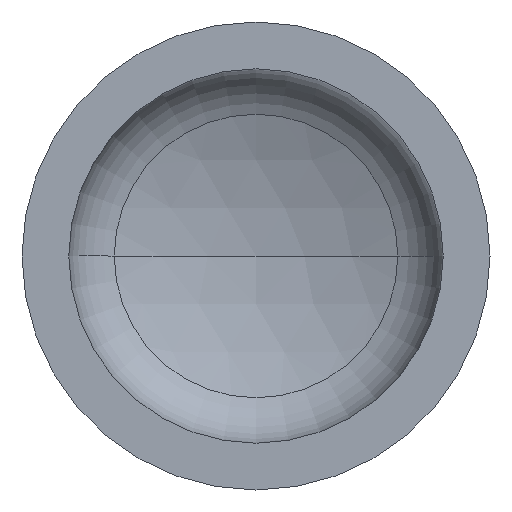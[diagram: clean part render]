
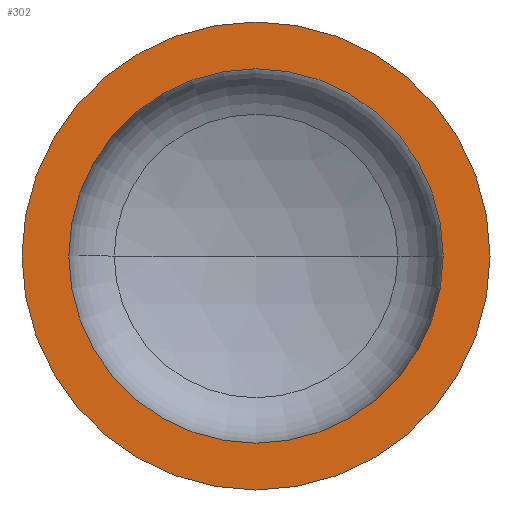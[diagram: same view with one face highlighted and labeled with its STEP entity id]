
A CAD part, front view. The second image highlights one B-rep face of the part: STEP entity #302.
In plain terms, the highlighted planar face has unit normal (0, -1, 0).
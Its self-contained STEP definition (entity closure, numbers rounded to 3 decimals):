
#5 = CIRCLE ( 'NONE', #177, 400. ) ;
#13 = AXIS2_PLACEMENT_3D ( 'NONE', #183, #120, #129 ) ;
#16 = AXIS2_PLACEMENT_3D ( 'NONE', #370, #373, #194 ) ;
#32 = ORIENTED_EDGE ( 'NONE', *, *, #380, .T. ) ;
#46 = EDGE_LOOP ( 'NONE', ( #113, #80 ) ) ;
#58 = VERTEX_POINT ( 'NONE', #248 ) ;
#66 = VERTEX_POINT ( 'NONE', #295 ) ;
#76 = AXIS2_PLACEMENT_3D ( 'NONE', #376, #386, #316 ) ;
#79 = AXIS2_PLACEMENT_3D ( 'NONE', #339, #336, #359 ) ;
#80 = ORIENTED_EDGE ( 'NONE', *, *, #337, .F. ) ;
#89 = EDGE_LOOP ( 'NONE', ( #32, #152 ) ) ;
#106 = EDGE_CURVE ( 'NONE', #58, #117, #368, .T. ) ;
#112 = VERTEX_POINT ( 'NONE', #320 ) ;
#113 = ORIENTED_EDGE ( 'NONE', *, *, #114, .F. ) ;
#114 = EDGE_CURVE ( 'NONE', #66, #112, #305, .T. ) ;
#117 = VERTEX_POINT ( 'NONE', #341 ) ;
#120 = DIRECTION ( 'NONE',  ( 0., 1., 0. ) ) ;
#129 = DIRECTION ( 'NONE',  ( -1., 0., 0. ) ) ;
#140 = FACE_OUTER_BOUND ( 'NONE', #89, .T. ) ;
#152 = ORIENTED_EDGE ( 'NONE', *, *, #106, .T. ) ;
#164 = DIRECTION ( 'NONE',  ( 0., -1., 0. ) ) ;
#177 = AXIS2_PLACEMENT_3D ( 'NONE', #309, #164, #267 ) ;
#183 = CARTESIAN_POINT ( 'NONE',  ( -400., 0., 0. ) ) ;
#194 = DIRECTION ( 'NONE',  ( 1., 0., 0. ) ) ;
#248 = CARTESIAN_POINT ( 'NONE',  ( -400., 0., 0. ) ) ;
#267 = DIRECTION ( 'NONE',  ( 1., 0., 0. ) ) ;
#269 = FACE_BOUND ( 'NONE', #46, .T. ) ;
#295 = CARTESIAN_POINT ( 'NONE',  ( 320., 0., 0. ) ) ;
#302 = ADVANCED_FACE ( 'NONE', ( #269, #140 ), #403, .F. ) ;
#305 = CIRCLE ( 'NONE', #76, 320. ) ;
#309 = CARTESIAN_POINT ( 'NONE',  ( 0., 0., 0. ) ) ;
#316 = DIRECTION ( 'NONE',  ( 1., 0., 0. ) ) ;
#320 = CARTESIAN_POINT ( 'NONE',  ( -320., 0., 0. ) ) ;
#336 = DIRECTION ( 'NONE',  ( 0., -1., 0. ) ) ;
#337 = EDGE_CURVE ( 'NONE', #112, #66, #393, .T. ) ;
#339 = CARTESIAN_POINT ( 'NONE',  ( 0., 0., 0. ) ) ;
#341 = CARTESIAN_POINT ( 'NONE',  ( 400., 0., 0. ) ) ;
#359 = DIRECTION ( 'NONE',  ( 1., 0., 0. ) ) ;
#368 = CIRCLE ( 'NONE', #79, 400. ) ;
#370 = CARTESIAN_POINT ( 'NONE',  ( 0., 0., 0. ) ) ;
#373 = DIRECTION ( 'NONE',  ( 0., -1., 0. ) ) ;
#376 = CARTESIAN_POINT ( 'NONE',  ( 0., 0., 0. ) ) ;
#380 = EDGE_CURVE ( 'NONE', #117, #58, #5, .T. ) ;
#386 = DIRECTION ( 'NONE',  ( 0., -1., 0. ) ) ;
#393 = CIRCLE ( 'NONE', #16, 320. ) ;
#403 = PLANE ( 'NONE',  #13 ) ;
